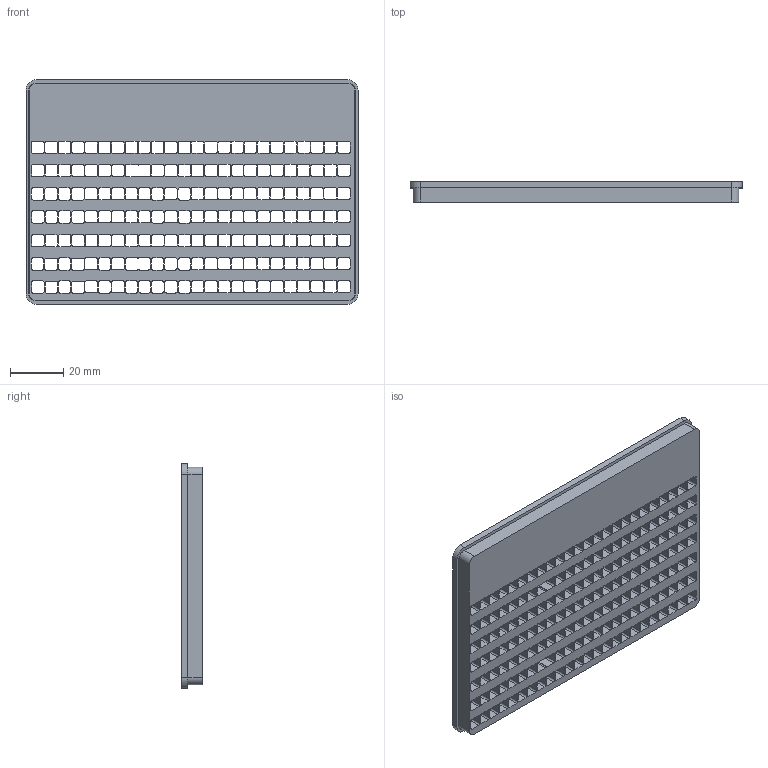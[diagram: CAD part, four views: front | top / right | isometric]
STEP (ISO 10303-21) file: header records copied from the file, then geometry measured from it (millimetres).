
FILE_DESCRIPTION(/* description */ ('STEP AP242 Edition 2','CAx-IF Rec.Pracs.---Representation and Presentation of Product Manufacturing Information (PMI)---4.0---2014-10-13','CAx-IF Rec.Pracs.---3D Tessellated Geometry---0.4---2014-09-14','2;1','CAx-IF Rec.Pracs.---User Defined Attributes---1.5---2016-08-15'),/* implementation_level */ '2;1');
FILE_NAME(/* name */ 'Assembly 1 - Part 56',/* time_stamp */ '2026-10-04T00:08:40Z',/* author */ (''),/* organization */ (''),/* preprocessor_version */ 'ST-DEVELOPER v20',/* originating_system */ 'ONSHAPE BY PTC INC, 1.221',/* authorisation */ ' ');
FILE_SCHEMA (('AP242_MANAGED_MODEL_BASED_3D_ENGINEERING_MIM_LF { 1 0 10303 442 3 1 4 }'));
Length unit declared in the file: metre
Products named in the file (1): Part 56
Bounding box: 125.05 x 7.7 x 84.56 mm (x, y, z)
Volume: 50975.9 mm3; surface area: 40349.8 mm2
Topology: 1 solids, 1 shells, 1369 faces, 4100 edges, 2732 vertices
Faces by surface type: plane 685, cylinder 684
Entity records: 47184 total; most frequent: DIRECTION 8208, CARTESIAN_POINT 8202, ORIENTED_EDGE 8200, EDGE_CURVE 4100, AXIS2_PLACEMENT_3D 2738, VERTEX_POINT 2732, LINE 2732, VECTOR 2732
